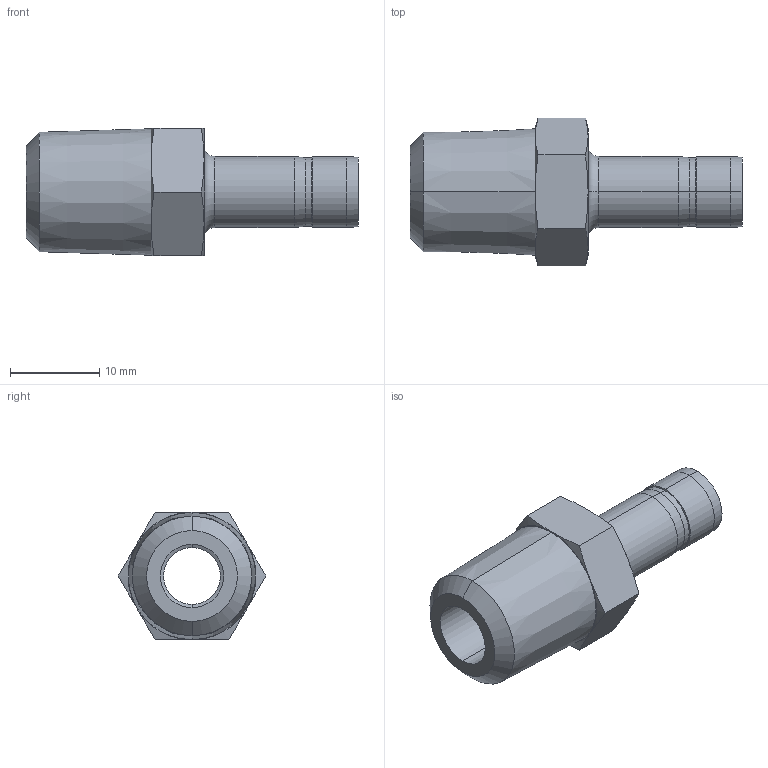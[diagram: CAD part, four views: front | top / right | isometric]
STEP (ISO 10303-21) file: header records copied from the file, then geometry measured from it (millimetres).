
FILE_DESCRIPTION (( 'STEP AP203' ), '1' );
FILE_NAME ('DHA05-04 SS.STEP', '2009-09-08T06:14:44', ( ' ' ), ( '' ), 'SwSTEP 2.0', 'SolidWorks 2008', '' );
FILE_SCHEMA (( 'CONFIG_CONTROL_DESIGN' ));
Length unit declared in the file: millimetre
Products named in the file (1): DHA05-04 SS
Bounding box: 37.1 x 16.5 x 14.29 mm (x, y, z)
Volume: 2617.2 mm3; surface area: 2306.9 mm2
Topology: 1 solids, 1 shells, 46 faces, 96 edges, 54 vertices
Faces by surface type: cone 24, cylinder 10, plane 10, torus 2
Entity records: 1317 total; most frequent: CARTESIAN_POINT 277, DIRECTION 210, ORIENTED_EDGE 192, EDGE_CURVE 96, AXIS2_PLACEMENT_3D 91, VERTEX_POINT 54, EDGE_LOOP 50, ADVANCED_FACE 46
